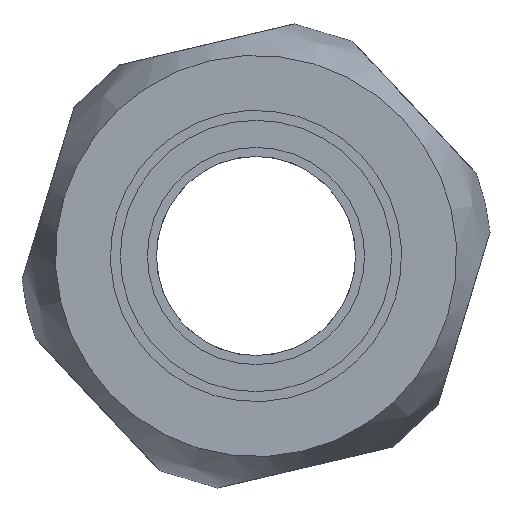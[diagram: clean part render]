
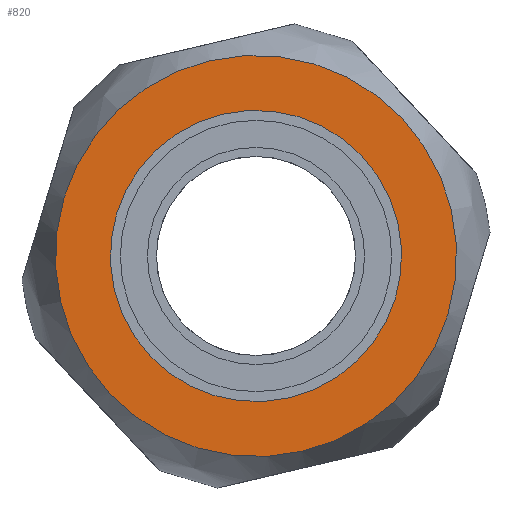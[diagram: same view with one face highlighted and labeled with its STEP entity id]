
A CAD part, left-side view. The second image highlights one B-rep face of the part: STEP entity #820.
In plain terms, the highlighted planar face has unit normal (-1, 0, 0).
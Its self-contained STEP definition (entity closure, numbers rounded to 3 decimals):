
#66=FACE_BOUND('',#195,.T.);
#89=PLANE('',#1021);
#134=FACE_OUTER_BOUND('',#194,.T.);
#194=EDGE_LOOP('',(#757,#758));
#195=EDGE_LOOP('',(#759,#760));
#332=CIRCLE('',#1013,11.089);
#333=CIRCLE('',#1014,11.089);
#336=CIRCLE('',#1019,8.05);
#337=CIRCLE('',#1020,8.05);
#416=VERTEX_POINT('',#1873);
#417=VERTEX_POINT('',#1877);
#420=VERTEX_POINT('',#1886);
#421=VERTEX_POINT('',#1888);
#528=EDGE_CURVE('',#416,#417,#332,.T.);
#529=EDGE_CURVE('',#417,#416,#333,.T.);
#533=EDGE_CURVE('',#421,#420,#336,.T.);
#534=EDGE_CURVE('',#420,#421,#337,.T.);
#757=ORIENTED_EDGE('',*,*,#529,.F.);
#758=ORIENTED_EDGE('',*,*,#528,.F.);
#759=ORIENTED_EDGE('',*,*,#533,.T.);
#760=ORIENTED_EDGE('',*,*,#534,.T.);
#820=ADVANCED_FACE('',(#134,#66),#89,.T.);
#1013=AXIS2_PLACEMENT_3D('',#1878,#1270,#1271);
#1014=AXIS2_PLACEMENT_3D('',#1879,#1272,#1273);
#1019=AXIS2_PLACEMENT_3D('',#1889,#1283,#1284);
#1020=AXIS2_PLACEMENT_3D('',#1890,#1285,#1286);
#1021=AXIS2_PLACEMENT_3D('',#1891,#1287,#1288);
#1270=DIRECTION('center_axis',(1.,0.,0.));
#1271=DIRECTION('ref_axis',(0.,1.,0.));
#1272=DIRECTION('center_axis',(1.,0.,0.));
#1273=DIRECTION('ref_axis',(0.,1.,0.));
#1283=DIRECTION('center_axis',(1.,0.,0.));
#1284=DIRECTION('ref_axis',(0.,1.,0.));
#1285=DIRECTION('center_axis',(1.,0.,0.));
#1286=DIRECTION('ref_axis',(0.,1.,0.));
#1287=DIRECTION('center_axis',(-1.,0.,0.));
#1288=DIRECTION('ref_axis',(0.,0.,1.));
#1873=CARTESIAN_POINT('',(0.,0.,11.089));
#1877=CARTESIAN_POINT('',(0.,11.089,0.));
#1878=CARTESIAN_POINT('Origin',(0.,0.,0.));
#1879=CARTESIAN_POINT('Origin',(0.,0.,0.));
#1886=CARTESIAN_POINT('',(0.,-8.05,0.));
#1888=CARTESIAN_POINT('',(0.,8.05,0.));
#1889=CARTESIAN_POINT('Origin',(0.,0.,0.));
#1890=CARTESIAN_POINT('Origin',(0.,0.,0.));
#1891=CARTESIAN_POINT('Origin',(0.,9.569,0.));
